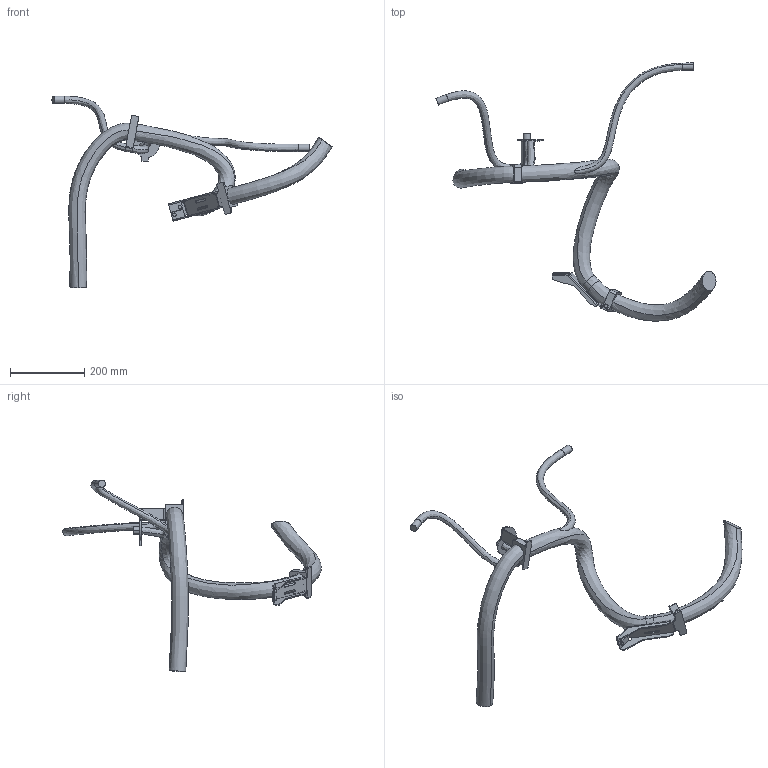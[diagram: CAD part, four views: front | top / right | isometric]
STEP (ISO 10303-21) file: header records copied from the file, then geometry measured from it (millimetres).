
FILE_DESCRIPTION (( 'STEP AP214' ), '1' );
FILE_NAME ('IRB6730S-ALL-OC_00_LINK01m_CABLE.step', '2026-05-26T10:31:43', ( '' ), ( '' ), 'SwSTEP 2.0', 'SolidWorks 2024', '' );
FILE_SCHEMA (( 'AUTOMOTIVE_DESIGN' ));
Length unit declared in the file: millimetre
Products named in the file (1): IRB6730S-ALL-OC_00_LINK01m_CABLE
Bounding box: 756.41 x 698 x 518.2 mm (x, y, z)
Volume: 2948593.4 mm3; surface area: 340759.1 mm2
Topology: 1 solids, 1 shells, 237 faces, 623 edges, 394 vertices
Faces by surface type: plane 129, cylinder 82, bspline 26
Entity records: 17150 total; most frequent: CARTESIAN_POINT 11333, ORIENTED_EDGE 1246, DIRECTION 1173, EDGE_CURVE 623, AXIS2_PLACEMENT_3D 402, VERTEX_POINT 394, LINE 369, VECTOR 369
